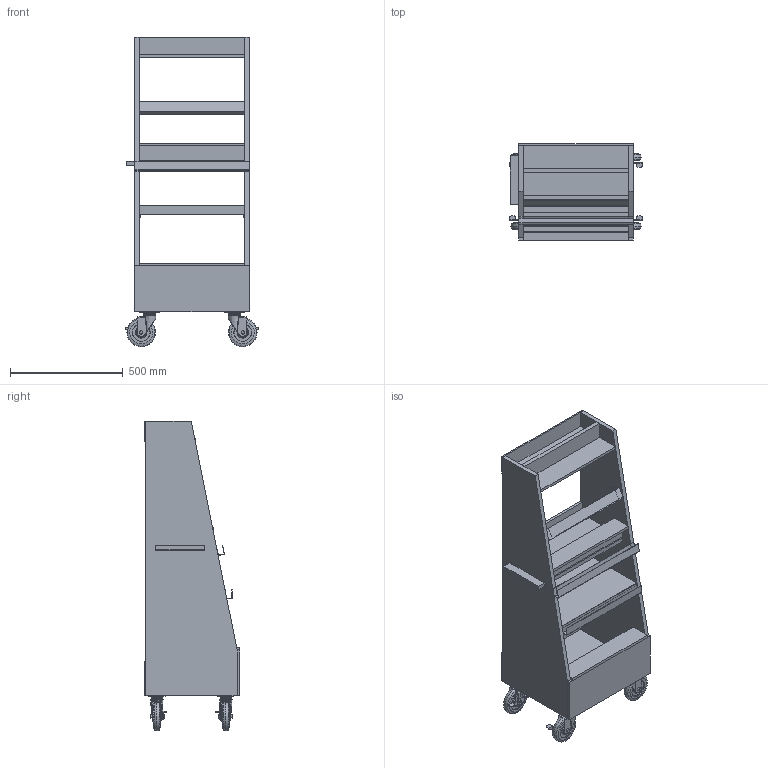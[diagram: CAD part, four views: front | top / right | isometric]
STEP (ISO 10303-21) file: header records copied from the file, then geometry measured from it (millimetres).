
FILE_DESCRIPTION ((), '1');
FILE_NAME ('/Volumes/Data/LeisureNotes/projects/tool cart/design/tool cart 20220102.stp', '2022-01-02T16:49:55', ('Unknown'), ('Unknown'), 'HarmonyWare STEP v2.1.4', 'HarmonyWare Translators', '');
FILE_SCHEMA (('CONFIG_CONTROL_DESIGN'));
Length unit declared in the file: inch
Products named in the file (28): caster 5in with brake; side right; side left; shelf
Assembly tree (27 placements, depth 2):
  (unnamed)
    (unnamed)
    (unnamed)
    (unnamed)
    (unnamed)
    (unnamed)
    (unnamed)
    (unnamed)
    (unnamed)
    (unnamed)
    (unnamed)
    (unnamed)
    (unnamed)
    (unnamed)
    (unnamed)
    (unnamed)
    (unnamed)
    (unnamed)
    (unnamed)
    caster 5in with brake
    caster 5in with brake
    caster 5in with brake
    caster 5in with brake
    side right
    side left
    shelf
    (unnamed)
    (unnamed)
Bounding box: 588.09 x 425.45 x 1374.66 mm (x, y, z)
Volume: 35346269.7 mm3; surface area: 4972554.7 mm2
Topology: 27 solids, 27 shells, 778 faces, 1934 edges, 1262 vertices
Faces by surface type: bspline 778
Entity records: 35086 total; most frequent: CARTESIAN_POINT 19835, ORIENTED_EDGE 3870, EDGE_CURVE 1935, B_SPLINE_CURVE_WITH_KNOTS 1295, VERTEX_POINT 1263, EDGE_LOOP 876, FACE_OUTER_BOUND 778, ADVANCED_FACE 778
